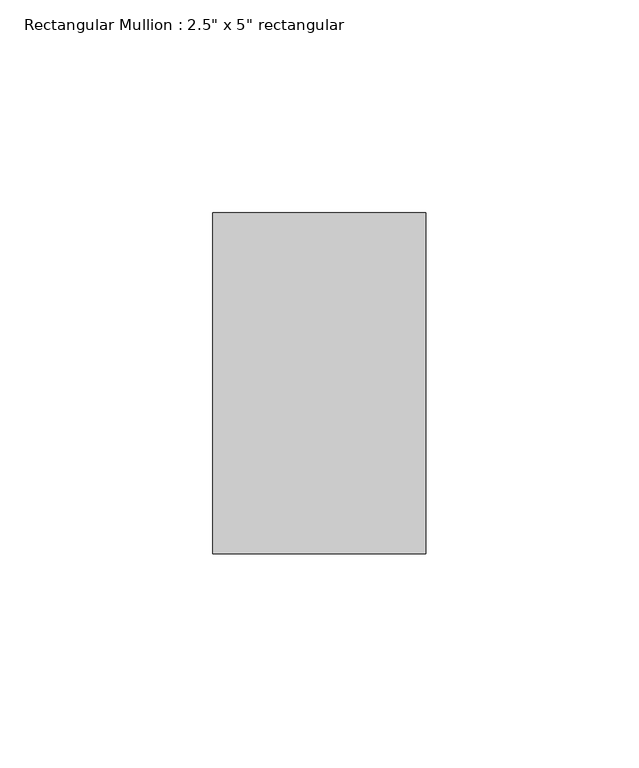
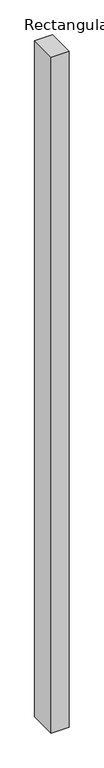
"""IFC4 building model written with IfcOpenShell, lengths in millimetres: member geometry."""

from ifc_helpers import new_model, si_unit, frame, origin, place, context, project, spatial, polyline, outline, extrude, source, transform, mapped, element, save


def member_744693ed(model_context):
    return source(origin(), model_context, "Body", "SweptSolid", [
        extrude(outline(polyline([(0.0, 40.0), (0.0, -40.0), (-50.0, -40.0), (-50.0, 40.0), (0.0, 40.0)])), frame((0.0, 0.0, -2000.0), z_axis=(0.0, 0.0, 1.0), x_axis=(1.0, 0.0, 0.0)), (0.0, 0.0, 1.0), 2000.0),
    ])


if __name__ == "__main__":
    model = new_model("IFC4")
    model_context = context("Model", 3, world=origin())
    ifc_project = project(units=[si_unit("LENGTHUNIT", "METRE", prefix="MILLI")], contexts=[model_context])
    site = spatial("IfcSite", under=ifc_project)
    building = spatial("IfcBuilding", under=site)
    placement = place(None, origin())
    member_shape = member_744693ed(model_context)
    element("IfcMember", 1, ObjectType="Rectangular Mullion : 2.5\" x 5\" rectangular", at=placement, inside=building, context=model_context, shape_type="MappedRepresentation", body=[
        mapped(member_shape, transform((0.0, 0.0, 0.0), x_axis=(1.0, 0.0, 0.0), y_axis=(0.0, 1.0, 0.0), z_axis=(0.0, 0.0, 1.0))),
    ])
    save(model, "model.ifc")
